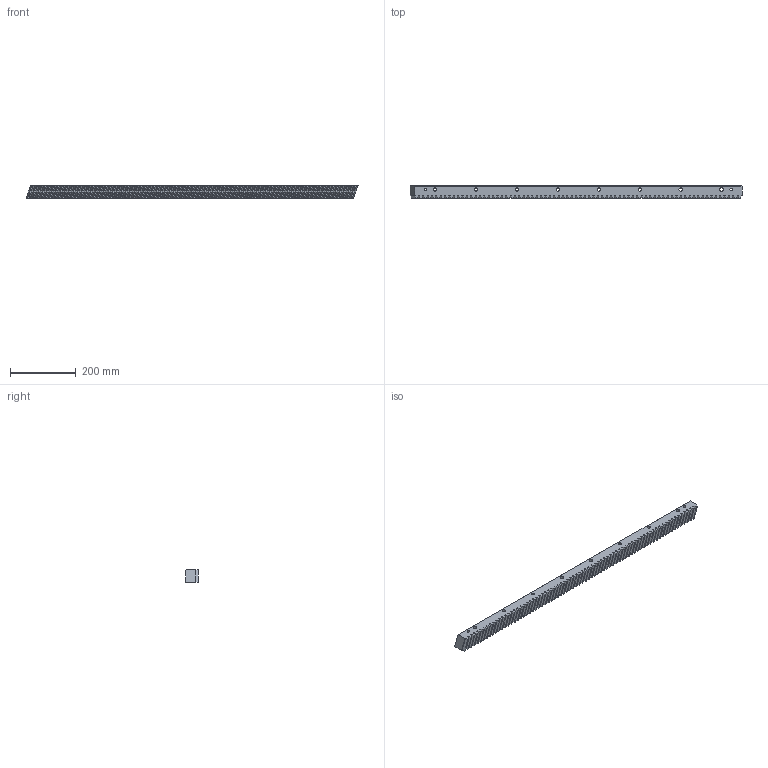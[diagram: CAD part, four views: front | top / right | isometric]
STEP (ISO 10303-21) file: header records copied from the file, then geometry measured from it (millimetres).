
FILE_DESCRIPTION(/* description */ (''),/* implementation_level */ '2;1');
FILE_NAME(/* name */ 'BL-1HR26R040100H.ipt',/* time_stamp */ '2019-06-18T08:37:15+02:00',/* author */ ('VĂ©gh MĂˇtĂ©'),/* organization */ ('Bearing Kft'),/* preprocessor_version */ 'ST-DEVELOPER v16.7',/* originating_system */ 'DEX',/* authorisation */ $);
FILE_SCHEMA (('AUTOMOTIVE_DESIGN {1 0 10303 214 3 1 1}'));
Length unit declared in the file: millimetre
Products named in the file (1): BL-1HR26R040100H.ipt
Bounding box: 1013.83 x 39 x 39 mm (x, y, z)
Volume: 1315149.9 mm3; surface area: 198615.9 mm2
Topology: 1 solids, 1 shells, 830 faces, 2286 edges, 1524 vertices
Faces by surface type: plane 583, bspline 227, cylinder 20
Full cylindrical faces by diameter (mm): 7.7 x2, 10 x8, 15 x8
Entity records: 37514 total; most frequent: CARTESIAN_POINT 11212, ORIENTED_EDGE 4516, DIRECTION 3652, EDGE_CURVE 2258, LINE 1764, VECTOR 1764, VERTEX_POINT 1524, EDGE_LOOP 944
